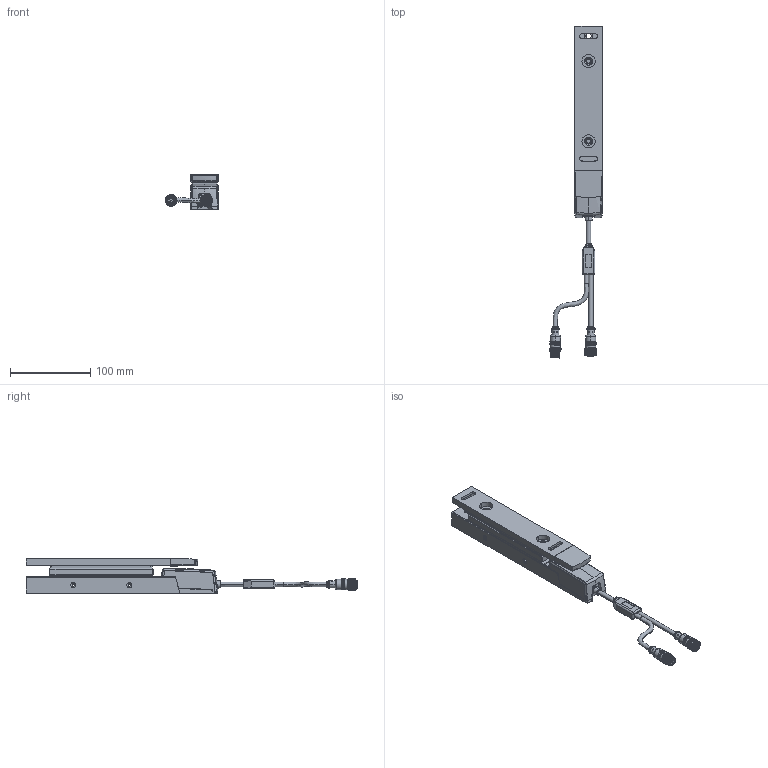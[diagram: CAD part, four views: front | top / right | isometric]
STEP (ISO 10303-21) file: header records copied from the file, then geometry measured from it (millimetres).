
FILE_DESCRIPTION (( 'STEP AP203' ), '1' );
FILE_NAME ('17-001-50V2 Holdx R2L.STEP', '2020-02-04T17:27:34', ( '' ), ( '' ), 'SwSTEP 2.0', 'SolidWorks 2011', '' );
FILE_SCHEMA (( 'CONFIG_CONTROL_DESIGN' ));
Length unit declared in the file: millimetre
Products named in the file (1): 17-001-50V2 Holdx R2L
Bounding box: 66.26 x 414.28 x 42.9 mm (x, y, z)
Surface area: 86071.4 mm2 (no closed solid volume)
Topology: 0 solids, 43 shells, 713 faces, 3579 edges, 2764 vertices
Faces by surface type: plane 251, cylinder 239, bspline 127, cone 43, torus 41, sphere 12
Entity records: 46233 total; most frequent: CARTESIAN_POINT 20441, ORIENTED_EDGE 5030, DIRECTION 4644, EDGE_CURVE 3559, VERTEX_POINT 2756, LINE 1904, VECTOR 1904, AXIS2_PLACEMENT_3D 1370
